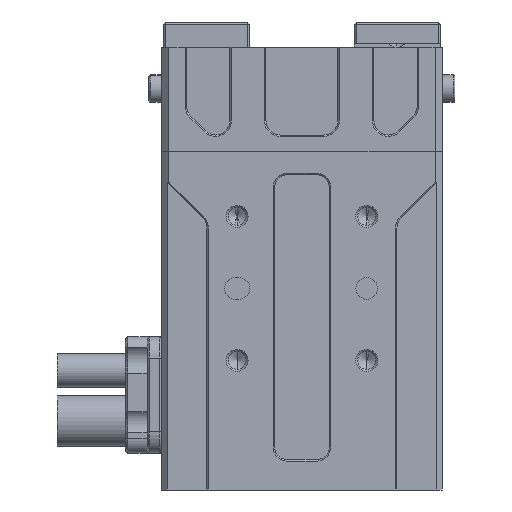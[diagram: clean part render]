
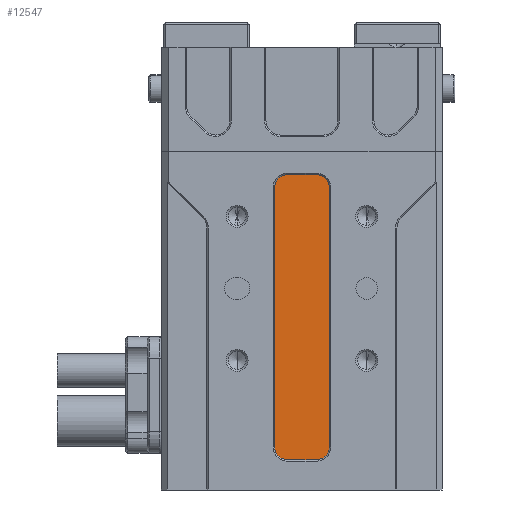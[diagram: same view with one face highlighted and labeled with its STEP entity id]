
A CAD part, left-side view. The second image highlights one B-rep face of the part: STEP entity #12547.
In plain terms, the highlighted planar face has unit normal (-1, 0, 0).
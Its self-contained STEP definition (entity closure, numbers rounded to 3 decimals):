
#609 = VECTOR ( 'NONE', #14851, 1000. ) ;
#1032 = ORIENTED_EDGE ( 'NONE', *, *, #13875, .T. ) ;
#1288 = LINE ( 'NONE', #10209, #15028 ) ;
#2222 = DIRECTION ( 'NONE',  ( 0., 0., 1. ) ) ;
#2330 = EDGE_LOOP ( 'NONE', ( #3328, #19784, #8729, #4840, #23961, #24337, #1032, #9653 ) ) ;
#3328 = ORIENTED_EDGE ( 'NONE', *, *, #14555, .T. ) ;
#3332 = CIRCLE ( 'NONE', #21541, 1.8 ) ;
#3708 = LINE ( 'NONE', #20360, #17168 ) ;
#3859 = DIRECTION ( 'NONE',  ( -1., 0., 0. ) ) ;
#4126 = FACE_OUTER_BOUND ( 'NONE', #2330, .T. ) ;
#4264 = DIRECTION ( 'NONE',  ( 0., 0., 1. ) ) ;
#4807 = CARTESIAN_POINT ( 'NONE',  ( -8.8, 2., -5. ) ) ;
#4840 = ORIENTED_EDGE ( 'NONE', *, *, #11494, .T. ) ;
#5308 = AXIS2_PLACEMENT_3D ( 'NONE', #15834, #3859, #18115 ) ;
#5693 = PLANE ( 'NONE',  #6478 ) ;
#6141 = CIRCLE ( 'NONE', #7506, 1.8 ) ;
#6478 = AXIS2_PLACEMENT_3D ( 'NONE', #9740, #9648, #13828 ) ;
#6493 = VERTEX_POINT ( 'NONE', #25970 ) ;
#6873 = CARTESIAN_POINT ( 'NONE',  ( -8.8, -3.8, -5. ) ) ;
#7114 = CARTESIAN_POINT ( 'NONE',  ( -8.8, 2., -3.2 ) ) ;
#7506 = AXIS2_PLACEMENT_3D ( 'NONE', #14400, #20189, #2222 ) ;
#8040 = VERTEX_POINT ( 'NONE', #22076 ) ;
#8361 = VERTEX_POINT ( 'NONE', #14963 ) ;
#8729 = ORIENTED_EDGE ( 'NONE', *, *, #9365, .T. ) ;
#9212 = DIRECTION ( 'NONE',  ( -1., 0., 0. ) ) ;
#9365 = EDGE_CURVE ( 'NONE', #8361, #18783, #18046, .T. ) ;
#9648 = DIRECTION ( 'NONE',  ( -1., 0., 0. ) ) ;
#9653 = ORIENTED_EDGE ( 'NONE', *, *, #20051, .T. ) ;
#9740 = CARTESIAN_POINT ( 'NONE',  ( -8.8, 2., -5. ) ) ;
#10079 = CARTESIAN_POINT ( 'NONE',  ( -8.8, 2., -41. ) ) ;
#10209 = CARTESIAN_POINT ( 'NONE',  ( -8.8, 2., -3.2 ) ) ;
#10247 = DIRECTION ( 'NONE',  ( -1., 0., 0. ) ) ;
#11494 = EDGE_CURVE ( 'NONE', #18783, #8040, #17025, .T. ) ;
#11836 = CIRCLE ( 'NONE', #21326, 1.8 ) ;
#12267 = CARTESIAN_POINT ( 'NONE',  ( -8.8, 3.8, -5. ) ) ;
#12401 = CARTESIAN_POINT ( 'NONE',  ( -8.8, -2., -42.8 ) ) ;
#12547 = ADVANCED_FACE ( 'NONE', ( #4126 ), #5693, .T. ) ;
#13828 = DIRECTION ( 'NONE',  ( 0., 0., 1. ) ) ;
#13875 = EDGE_CURVE ( 'NONE', #14025, #25952, #1288, .T. ) ;
#14025 = VERTEX_POINT ( 'NONE', #21100 ) ;
#14205 = DIRECTION ( 'NONE',  ( 0., 1., 0. ) ) ;
#14400 = CARTESIAN_POINT ( 'NONE',  ( -8.8, -2., -5. ) ) ;
#14555 = EDGE_CURVE ( 'NONE', #18186, #6493, #15299, .T. ) ;
#14644 = DIRECTION ( 'NONE',  ( 0., -1., 0. ) ) ;
#14851 = DIRECTION ( 'NONE',  ( 0., 0., -1. ) ) ;
#14963 = CARTESIAN_POINT ( 'NONE',  ( -8.8, 2., -42.8 ) ) ;
#15012 = EDGE_CURVE ( 'NONE', #8040, #20898, #3708, .T. ) ;
#15028 = VECTOR ( 'NONE', #14205, 1000. ) ;
#15299 = LINE ( 'NONE', #22728, #609 ) ;
#15834 = CARTESIAN_POINT ( 'NONE',  ( -8.8, -2., -41. ) ) ;
#16430 = EDGE_CURVE ( 'NONE', #6493, #8361, #11836, .T. ) ;
#17025 = CIRCLE ( 'NONE', #5308, 1.8 ) ;
#17168 = VECTOR ( 'NONE', #20442, 1000. ) ;
#18046 = LINE ( 'NONE', #18658, #21484 ) ;
#18115 = DIRECTION ( 'NONE',  ( 0., 0., 1. ) ) ;
#18186 = VERTEX_POINT ( 'NONE', #12267 ) ;
#18658 = CARTESIAN_POINT ( 'NONE',  ( -8.8, 2., -42.8 ) ) ;
#18783 = VERTEX_POINT ( 'NONE', #12401 ) ;
#19784 = ORIENTED_EDGE ( 'NONE', *, *, #16430, .T. ) ;
#20051 = EDGE_CURVE ( 'NONE', #25952, #18186, #3332, .T. ) ;
#20189 = DIRECTION ( 'NONE',  ( -1., 0., 0. ) ) ;
#20360 = CARTESIAN_POINT ( 'NONE',  ( -8.8, -3.8, -5. ) ) ;
#20442 = DIRECTION ( 'NONE',  ( 0., 0., 1. ) ) ;
#20849 = EDGE_CURVE ( 'NONE', #20898, #14025, #6141, .T. ) ;
#20898 = VERTEX_POINT ( 'NONE', #6873 ) ;
#21100 = CARTESIAN_POINT ( 'NONE',  ( -8.8, -2., -3.2 ) ) ;
#21326 = AXIS2_PLACEMENT_3D ( 'NONE', #10079, #10247, #4264 ) ;
#21484 = VECTOR ( 'NONE', #14644, 1000. ) ;
#21541 = AXIS2_PLACEMENT_3D ( 'NONE', #4807, #9212, #24932 ) ;
#22076 = CARTESIAN_POINT ( 'NONE',  ( -8.8, -3.8, -41. ) ) ;
#22728 = CARTESIAN_POINT ( 'NONE',  ( -8.8, 3.8, -5. ) ) ;
#23961 = ORIENTED_EDGE ( 'NONE', *, *, #15012, .T. ) ;
#24337 = ORIENTED_EDGE ( 'NONE', *, *, #20849, .T. ) ;
#24932 = DIRECTION ( 'NONE',  ( 0., 0., 1. ) ) ;
#25952 = VERTEX_POINT ( 'NONE', #7114 ) ;
#25970 = CARTESIAN_POINT ( 'NONE',  ( -8.8, 3.8, -41. ) ) ;
